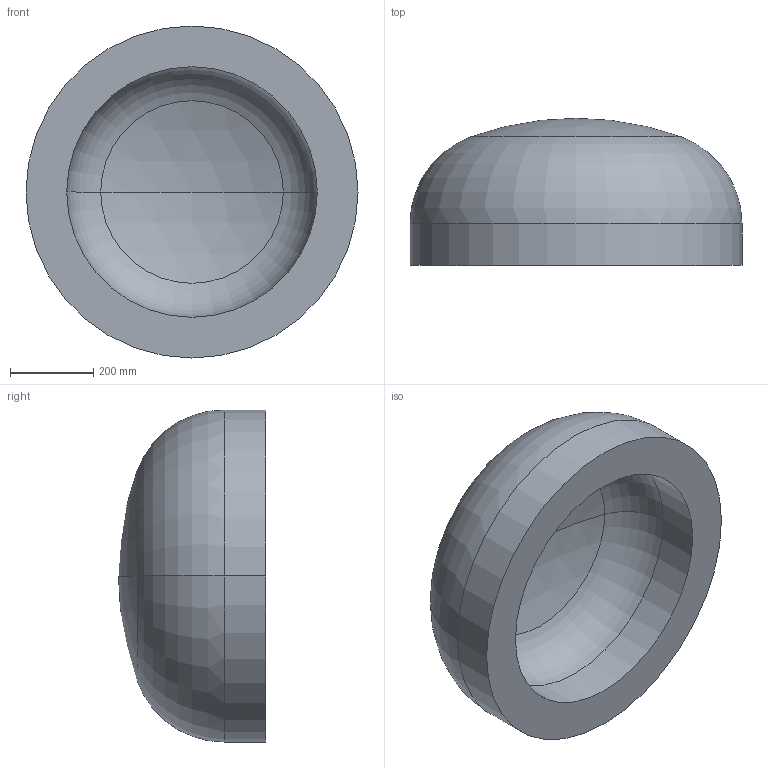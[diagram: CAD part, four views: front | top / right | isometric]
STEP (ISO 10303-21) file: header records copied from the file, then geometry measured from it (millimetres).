
FILE_DESCRIPTION (( 'STEP AP203' ), '1' );
FILE_NAME ('DIN 28013 Korbbogenform_-_Boden DIN 28013 - 800 x 100 - I - s=98.step', '2016-07-01T08:23:05', ( '' ), ( '' ), 'SwSTEP 2.0', 'SolidWorks 2013', '' );
FILE_SCHEMA (( 'CONFIG_CONTROL_DESIGN' ));
Length unit declared in the file: millimetre
Products named in the file (1): DIN 28013 Korbbogenform_-_Boden DIN 28013 - 800 x 100 - I - s=98
Bounding box: 800 x 354.37 x 800 mm (x, y, z)
Volume: 80554251.6 mm3; surface area: 1880207.7 mm2
Topology: 1 solids, 1 shells, 13 faces, 24 edges, 14 vertices
Faces by surface type: torus 4, cylinder 4, sphere 4, plane 1
Entity records: 407 total; most frequent: DIRECTION 72, CARTESIAN_POINT 52, ORIENTED_EDGE 48, AXIS2_PLACEMENT_3D 34, EDGE_CURVE 24, CIRCLE 20, EDGE_LOOP 14, VERTEX_POINT 14
